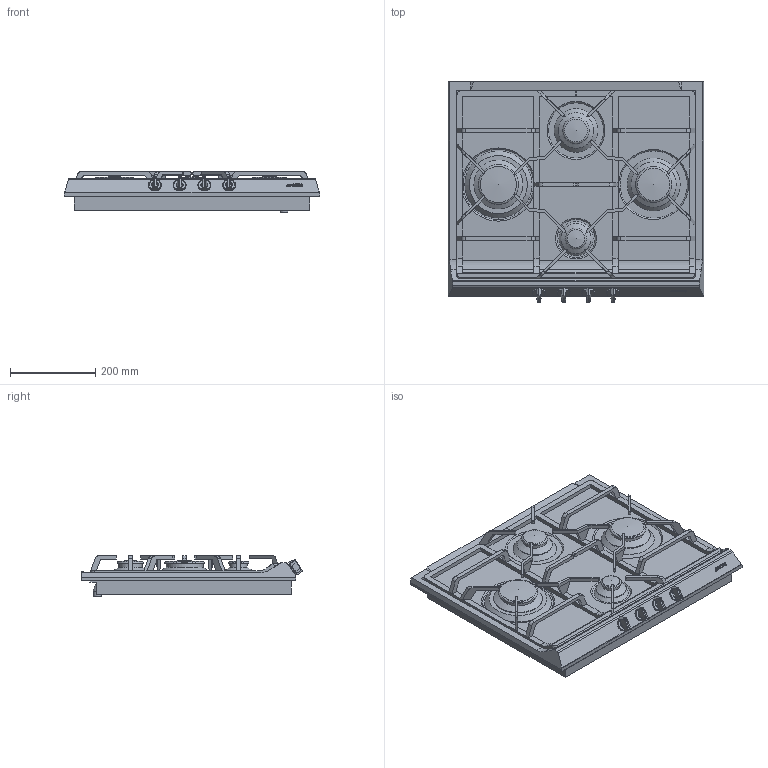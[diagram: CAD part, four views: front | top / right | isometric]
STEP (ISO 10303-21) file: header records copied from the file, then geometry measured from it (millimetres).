
FILE_DESCRIPTION(/* description */ (''),/* implementation_level */ '2;1');
FILE_NAME(/* name */ 'piano s60ghs.stp',/* time_stamp */ '2018-05-21T11:12:31+02:00',/* author */ (''),/* organization */ (''),/* preprocessor_version */ 'ST-DEVELOPER v16',/* originating_system */ 'SIEMENS PLM Software NX 11.0',/* authorisation */ '');
FILE_SCHEMA (('AUTOMOTIVE_DESIGN { 1 0 10303 214 3 1 1 1 }'));
Length unit declared in the file: millimetre
Products named in the file (1): gobb0D1C07DC2g3e
Bounding box: 600 x 518.18 x 96.01 mm (x, y, z)
Volume: 14184247.9 mm3; surface area: 1672460 mm2
Topology: 25 solids, 25 shells, 561 faces, 1417 edges, 909 vertices
Faces by surface type: plane 366, cylinder 119, bspline 36, cone 12, extrusion 11, torus 9, sphere 8
Full cylindrical faces by diameter (mm): 3.37 x6, 16 x4, 18 x2, 23 x4, 27 x4, 30 x4, 42 x1, 43 x1, 55 x1, 56 x1, 70.5 x1, 77.5 x1, 78.5 x1, 83 x1, 87 x1, 88 x1, 106 x1, 115 x1
Entity records: 17265 total; most frequent: CARTESIAN_POINT 4175, ORIENTED_EDGE 2624, DIRECTION 2578, EDGE_CURVE 1312, VERTEX_POINT 870, VECTOR 868, LINE 857, AXIS2_PLACEMENT_3D 855
